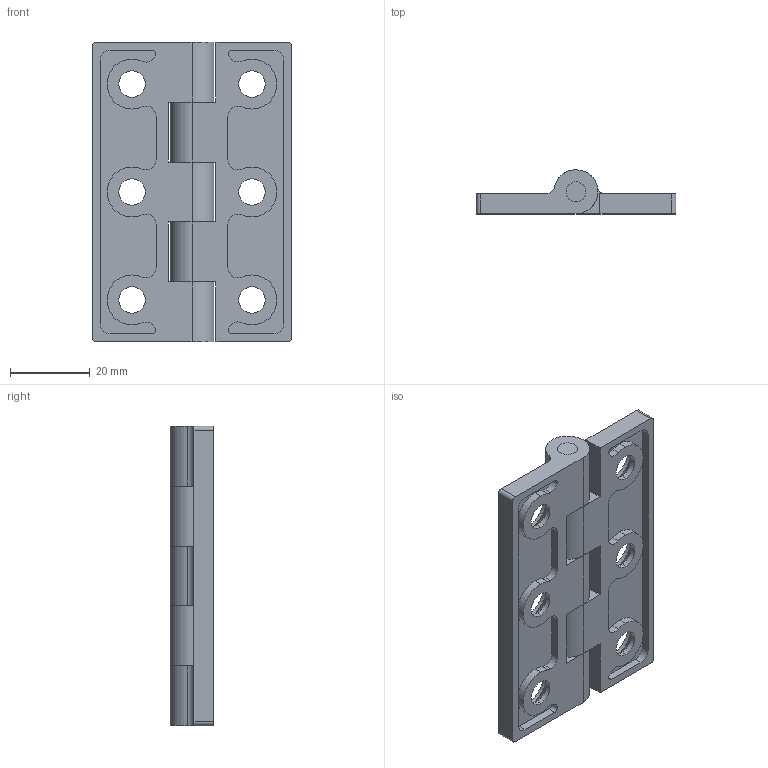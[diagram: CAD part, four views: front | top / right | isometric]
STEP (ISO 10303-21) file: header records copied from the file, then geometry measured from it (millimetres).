
FILE_DESCRIPTION (( 'STEP AP214' ), '1' );
FILE_NAME ('SK2-8062-2.STEP', '2020-03-24T02:03:58', ( 'admin' ), ( 'Microsoft' ), 'SwSTEP 2.0', 'SolidWorks 2018', '' );
FILE_SCHEMA (( 'AUTOMOTIVE_DESIGN' ));
Length unit declared in the file: millimetre
Products named in the file (4): 2-8062-2-F3; 2-8062-2-F2; 2-8062-2-F1; SK2-8062-2
Assembly tree (3 placements, depth 2):
  SK2-8062-2
    2-8062-2-F1
    2-8062-2-F2
    2-8062-2-F3
Bounding box: 50 x 11 x 75 mm (x, y, z)
Volume: 17655.3 mm3; surface area: 13920.1 mm2
Topology: 3 solids, 3 shells, 143 faces, 381 edges, 246 vertices
Faces by surface type: cylinder 94, plane 37, cone 12
Entity records: 4709 total; most frequent: DIRECTION 867, CARTESIAN_POINT 776, ORIENTED_EDGE 762, EDGE_CURVE 381, AXIS2_PLACEMENT_3D 337, VERTEX_POINT 246, VECTOR 193, LINE 193
